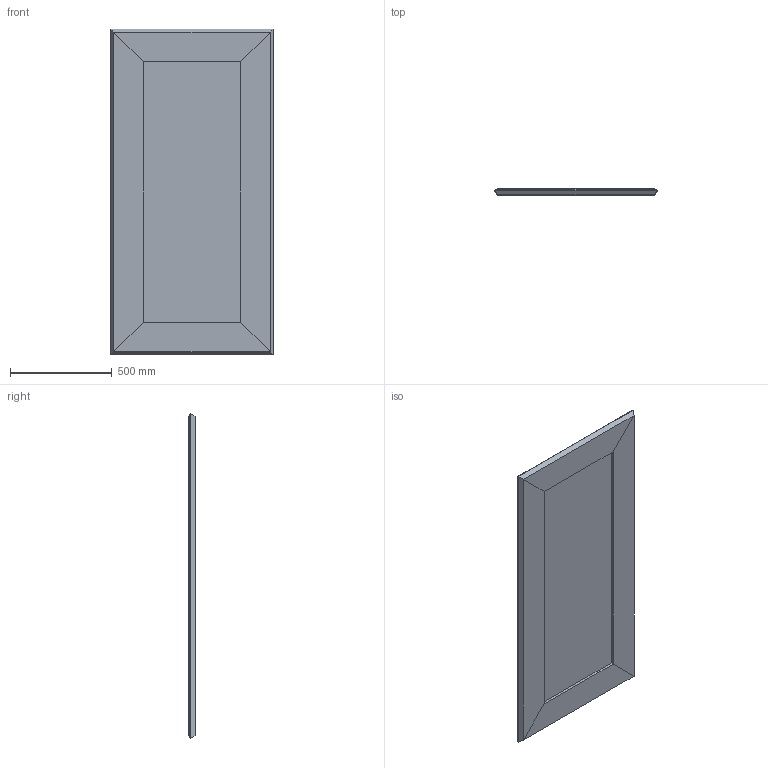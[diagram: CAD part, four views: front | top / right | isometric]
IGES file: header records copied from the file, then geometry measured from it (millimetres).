
Start section: SolidWorks IGES file using analytic representation for surfaces
Global section: file name: Y:\eforma\TECNICO\SOLIDWORKS\E-FORMA\4-SPECCHI\PRISMA\02 parts\PRI04_Prisma_160x80.IGS; native system: SolidWorks 2022; preprocessor: SolidWorks 2022; author: eforma.tech; date: 240806.094700; units: millimetre
Bounding box: 800 x 30 x 1600 mm (x, y, z)
Volume: 24579186.2 mm3; surface area: 3063255.9 mm2
Topology: 5 solids, 5 shells, 166 faces, 424 edges, 272 vertices
Faces by surface type: plane 98, revolution 68
